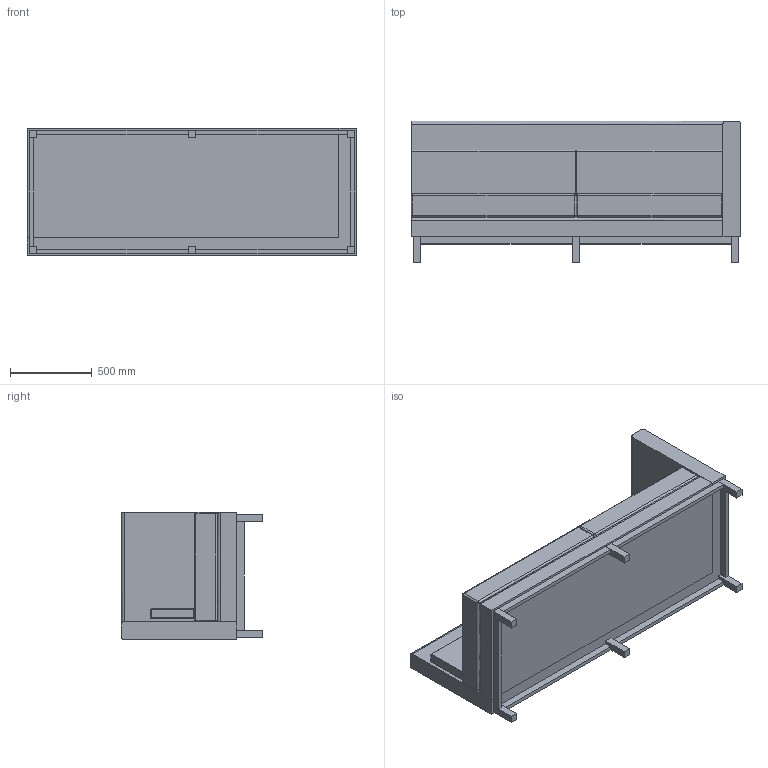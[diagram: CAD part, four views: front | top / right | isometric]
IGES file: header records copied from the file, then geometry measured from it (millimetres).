
Start section: SolidWorks IGES file using analytic representation for surfaces
Global section: file name: P:\3D CAD BLOCKS\ARTHUR CITYSCAPE\LB Plain Compact LH\IGS\ART-LB-PLAIN-COMP-ART-CITY-LH.IGS; native system: SolidWorks 2012; preprocessor: SolidWorks 2012; author: tom; date: 160523.093426; units: millimetre
Bounding box: 2020 x 868 x 780 mm (x, y, z)
Surface area: 13284559.3 mm2 (no closed solid volume)
Topology: 0 solids, 0 shells, 196 faces, 896 edges, 885 vertices
Faces by surface type: bspline 110, revolution 86
